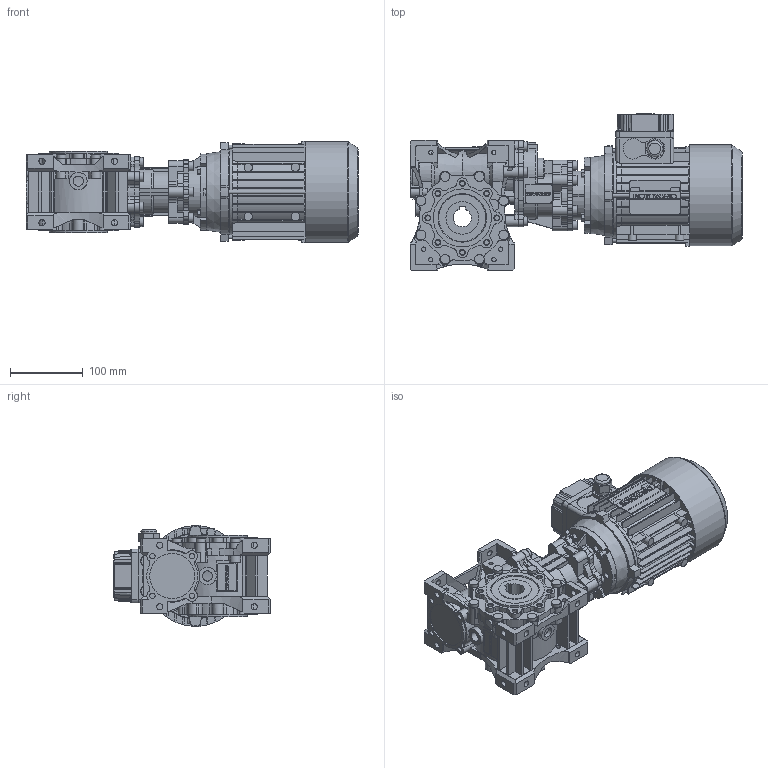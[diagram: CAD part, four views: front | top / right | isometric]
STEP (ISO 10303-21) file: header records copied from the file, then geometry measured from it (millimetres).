
FILE_DESCRIPTION(/* description */ ('STEP AP203'),/* implementation_level */ '2;1');
FILE_NAME(/* name */ 'NMRVP_HW 030-063 38.6 (3.86x10) 105x14 25 NO NO - - NO - - - NO T 071 -1(--------)',/* time_stamp */ '2023-06-26T06:54:23+02:00',/* author */ ('License CC BY-ND 4.0'),/* organization */ ('CADENAS'),/* preprocessor_version */ 'ST-DEVELOPER v19.3',/* originating_system */ 'PARTsolutions',/* authorisation */ ' ');
FILE_SCHEMA (('CONFIG_CONTROL_DESIGN','AP203_CONFIGURATION_CONTROLLED_3D_DESIGN_OF_MECHANICAL_PARTS_AND_ASSEMBLIES_MIM_LF { 1 0 10303 203 3 1 4 }'));
Products named in the file (14): NMRVP/HW 030-063 38.6 (3.86x10) 105x14 25 NO NO - - NO - - - NO T 071
 -1(--------); PC.030.27.14.M; ALBERO_T07114X30NO; PRESSACAVO_2; COPRIMORSETTIERA_T071A002; COPRIVENTOLA_T_071_IC411_NO_-_-_-_-_STD; CARCASSA_T-071IC411B1414X30NONO--; FLANGIA_T071B14-; 6371 B14; HW30; 63-45; W.063.14.14.M-phw; 063-25 (112); W.063.01.M
Assembly tree (13 placements, depth 2):
  NMRVP/HW 030-063 38.6 (3.86x10) 105x14 25 NO NO - - NO - - - NO T 071
 -1(--------)
    PC.030.27.14.M
    ALBERO_T07114X30NO
    PRESSACAVO_2
    COPRIMORSETTIERA_T071A002
    COPRIVENTOLA_T_071_IC411_NO_-_-_-_-_STD
    CARCASSA_T-071IC411B1414X30NONO--
    FLANGIA_T071B14-
    6371 B14
    HW30
    63-45
    W.063.14.14.M-phw
    063-25 (112)
    W.063.01.M
Bounding box: 457 x 215.5 x 139.37 mm (x, y, z)
Volume: 5232409.1 mm3; surface area: 627332.4 mm2
Topology: 13 solids, 17 shells, 3545 faces, 9804 edges, 6503 vertices
Faces by surface type: plane 1905, cylinder 1525, cone 102, torus 9, sphere 4
Full cylindrical faces by diameter (mm): 1.8 x1, 2.02 x1, 4.134 x1, 5 x4, 5.3 x1, 5.5 x4, 6 x16, 6.647 x16, 7.26 x12, 7.8 x1, 8 x4, 8.5 x20, 11.5 x4, 13 x20, 14 x4, 15 x1, 18 x1, 20 x3, 22 x1, 24 x1, 27 x1, 29 x1, 34 x1, 35 x2, 37 x1, 44 x1, 45 x3, 62 x3, 68 x4, 70 x2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
Entity records: 126780 total; most frequent: CARTESIAN_POINT 20953, DIRECTION 19746, ORIENTED_EDGE 19140, EDGE_CURVE 9570, AXIS2_PLACEMENT_3D 7005, VERTEX_POINT 6458, LINE 5736, VECTOR 5736
